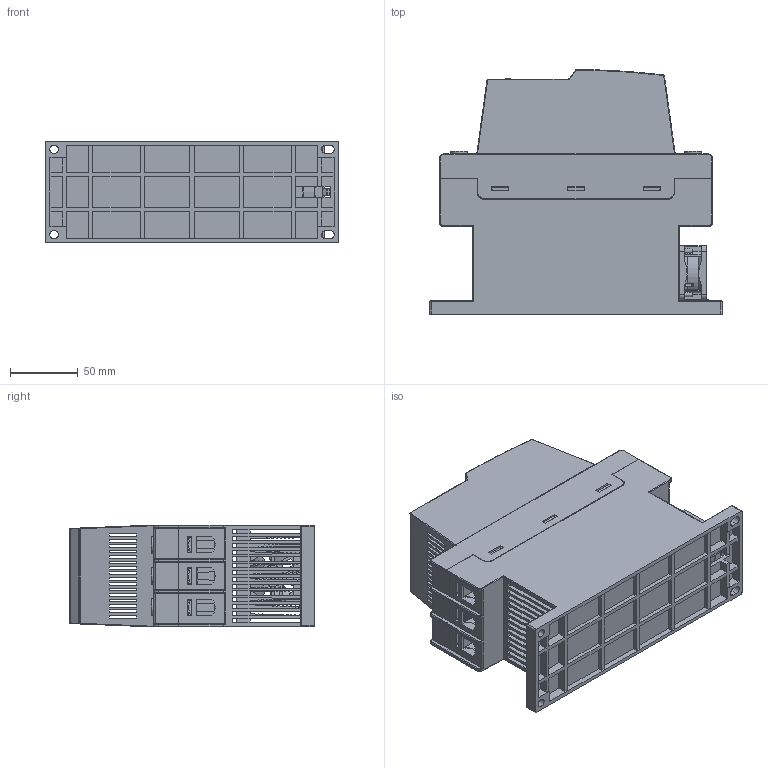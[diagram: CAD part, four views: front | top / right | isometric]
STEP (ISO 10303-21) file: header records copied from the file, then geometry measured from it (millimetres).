
FILE_DESCRIPTION(/* description */ ('STEP AP214'),/* implementation_level */ '2;1');
FILE_NAME(/* name */ 'O:\БЭМ\Personal\Абрамов\010-18-2 РУНН Крюково\MCD4 кит\3D\HPISS 37~105A\HPISS 37~105A адапт.stp',/* time_stamp */ '2024-02-01T07:34:47+03:00',/* author */ ('a.abramov'),/* organization */ (''),/* preprocessor_version */ 'ST-DEVELOPER v18.1',/* originating_system */ 'Autodesk Inventor 2022',/* authorisation */ '');
FILE_SCHEMA (('AUTOMOTIVE_DESIGN { 1 0 10303 214 3 1 1 }'));
Products named in the file (1): HPISS 37~105A
Bounding box: 215 x 180 x 75 mm (x, y, z)
Volume: 780610.9 mm3; surface area: 637428.4 mm2
Topology: 43 solids, 43 shells, 6989 faces, 19587 edges, 12905 vertices
Faces by surface type: plane 4530, cylinder 1188, bspline 1139, torus 73, cone 52, sphere 7
Full cylindrical faces by diameter (mm): 0.5 x4, 0.508 x9, 0.609 x1, 0.635 x4, 0.8 x13, 0.813 x20, 0.914 x6, 0.991 x6, 1 x16, 1.143 x4, 1.2 x6, 1.25 x1, 1.27 x4, 1.295 x2, 1.3 x6, 2.3 x4, 2.5 x10, 3.2 x6, 3.5 x12, 3.708 x3, 3.783 x6, 3.861 x3, 4 x6, 4.5 x1, 5 x11, 5.2 x2, 5.3 x1, 5.4 x6, 5.41 x3, 5.5 x4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
Entity records: 240531 total; most frequent: CARTESIAN_POINT 62217, ORIENTED_EDGE 39158, DIRECTION 31546, EDGE_CURVE 19579, LINE 14352, VECTOR 14352, VERTEX_POINT 12905, AXIS2_PLACEMENT_3D 8597
